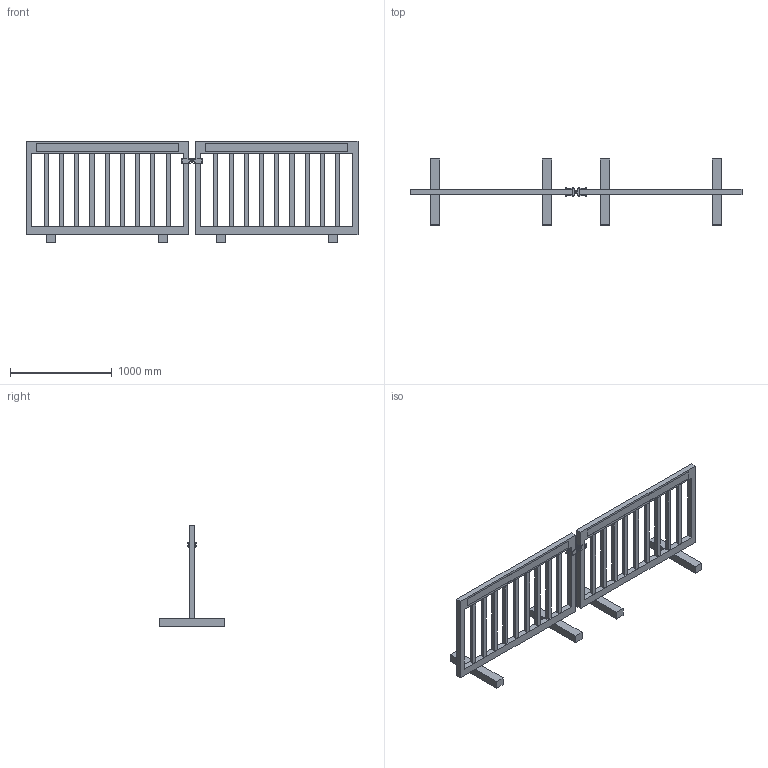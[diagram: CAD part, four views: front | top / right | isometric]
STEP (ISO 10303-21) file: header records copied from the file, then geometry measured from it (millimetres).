
FILE_DESCRIPTION(('FreeCAD Model'),'2;1');
FILE_NAME('Open CASCADE Shape Model','2026-10-13T10:51:51',('FreeCAD'),( 'FreeCAD'),'Open CASCADE STEP processor 7.8','FreeCAD','Unknown');
FILE_SCHEMA(('AUTOMOTIVE_DESIGN { 1 0 10303 214 1 1 1 1 }'));
Length unit declared in the file: millimetre
Products named in the file (1): Open CASCADE STEP translator 7.8 1
Bounding box: 3270 x 650 x 1000 mm (x, y, z)
Volume: 80476603.2 mm3; surface area: 6589121.7 mm2
Topology: 35 solids, 35 shells, 384 faces, 851 edges, 566 vertices
Faces by surface type: plane 327, cylinder 57
Full cylindrical faces by diameter (mm): 2.5 x1, 6 x8, 6.6 x16, 10 x16, 12 x5, 14 x10, 18 x1
Entity records: 10671 total; most frequent: CARTESIAN_POINT 1888, DIRECTION 1731, ORIENTED_EDGE 1702, EDGE_CURVE 851, LINE 737, VECTOR 737, VERTEX_POINT 566, FACE_BOUND 499
